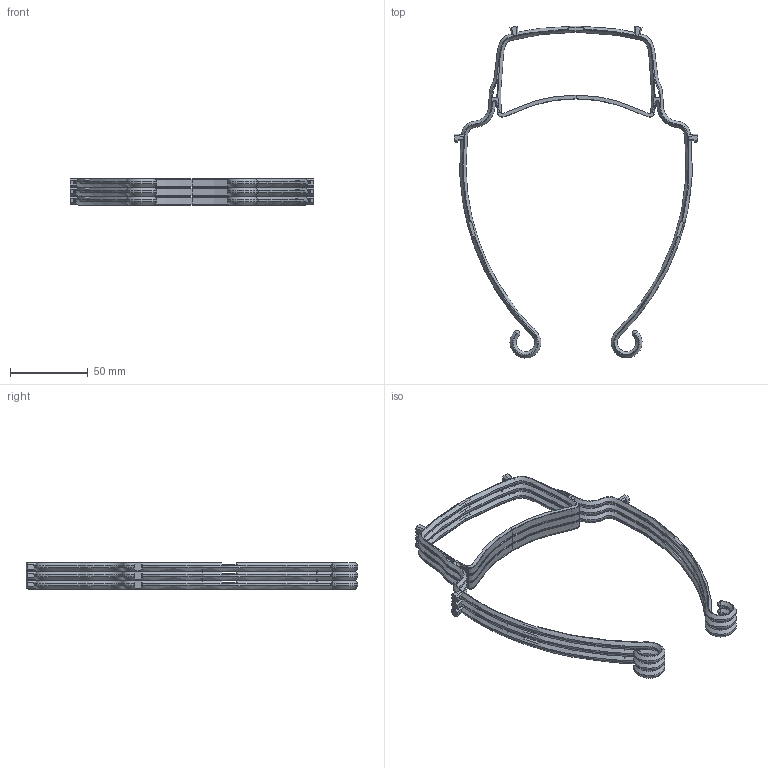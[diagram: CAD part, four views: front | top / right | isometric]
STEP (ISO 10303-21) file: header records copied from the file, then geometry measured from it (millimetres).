
FILE_DESCRIPTION(/* description */ (''),/* implementation_level */ '2;1');
FILE_NAME(/* name */ 'Long_3Stack',/* time_stamp */ '2020-03-30T16:06:16+11:00',/* author */ (''),/* organization */ (''),/* preprocessor_version */ 'ST-DEVELOPER v16.5',/* originating_system */ '',/* authorisation */ '');
FILE_SCHEMA (('AUTOMOTIVE_DESIGN'));
Length unit declared in the file: millimetre
Products named in the file (1): Document
Bounding box: 157.28 x 214.15 x 17 mm (x, y, z)
Volume: 41690.6 mm3; surface area: 34595.5 mm2
Topology: 25 solids, 25 shells, 403 faces, 963 edges, 604 vertices
Faces by surface type: bspline 230, plane 173
Entity records: 19269 total; most frequent: CARTESIAN_POINT 12721, ORIENTED_EDGE 1926, EDGE_CURVE 963, B_SPLINE_CURVE_WITH_KNOTS 825, VERTEX_POINT 604, EDGE_LOOP 415, ADVANCED_FACE 403, FACE_OUTER_BOUND 403
